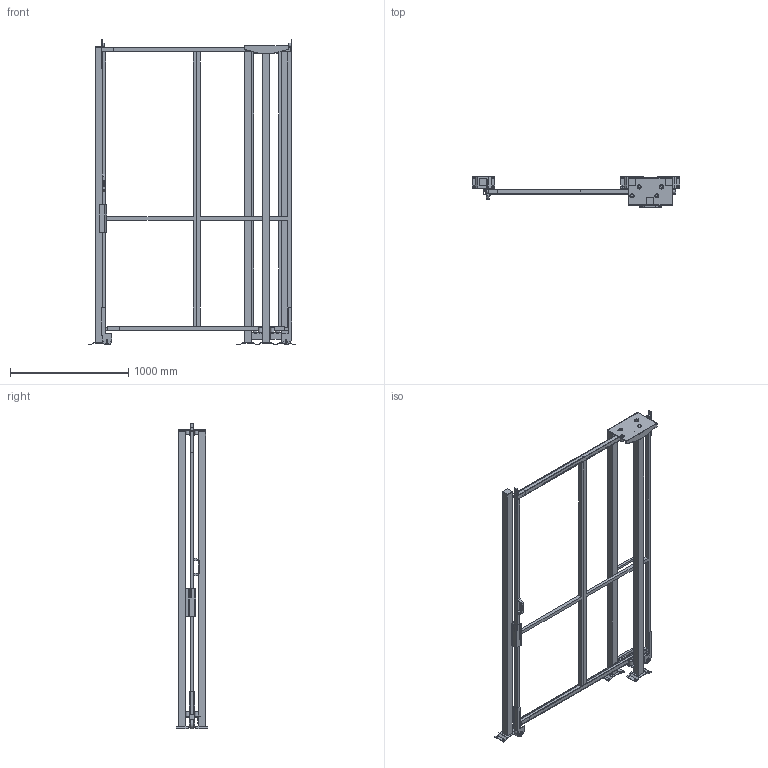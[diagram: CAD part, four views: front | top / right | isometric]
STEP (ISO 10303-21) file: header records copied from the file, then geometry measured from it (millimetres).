
FILE_DESCRIPTION(/* description */ (''),/* implementation_level */ '2;1');
FILE_NAME(/* name */ 'C:\SafeGuarding\ELABORATI\KLADKA_2025-03-20-09-46-08.stp',/* time_stamp */ '2025-03-20T09:46:09+01:00',/* author */ ('admin'),/* organization */ (''),/* preprocessor_version */ 'ST-DEVELOPER v18.1',/* originating_system */ 'AutoCAD Mechanical',/* authorisation */ '');
FILE_SCHEMA (('AUTOMOTIVE_DESIGN { 1 0 10303 214 3 1 1 }'));
Length unit declared in the file: millimetre
Products named in the file (4): Product; VFPA.REPE30.08002400; VFPA.REPE2002502400; P_VFMA.V360SDU.2520
Assembly tree (7 placements, depth 2):
  Product
    VFPA.REPE30.08002400  x2
    VFPA.REPE2002502400
    P_VFMA.V360SDU.2520  x4
Bounding box: 1761.97 x 264.14 x 2590.02 mm (x, y, z)
Volume: 54422054.2 mm3; surface area: 6901203.9 mm2
Topology: 48 solids, 59 shells, 501 faces, 1603 edges, 1541 vertices
Faces by surface type: plane 449, cylinder 50, sphere 2
Full cylindrical faces by diameter (mm): 9 x4, 11 x16, 13 x4, 30 x6, 36 x8, 80 x2
Entity records: 13688 total; most frequent: CARTESIAN_POINT 2840, DIRECTION 2089, ORIENTED_EDGE 1962, EDGE_CURVE 1030, LINE 985, VECTOR 985, VERTEX_POINT 726, AXIS2_PLACEMENT_3D 552
